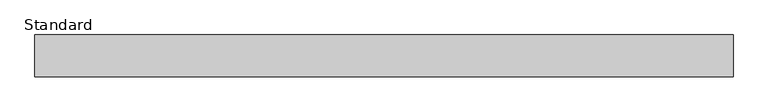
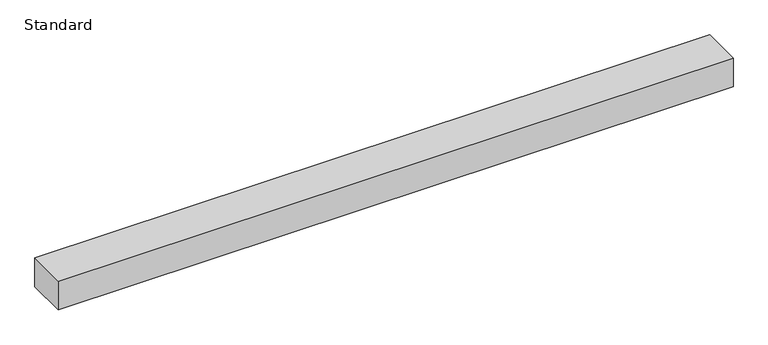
"""IFC4 building model written with IfcOpenShell, lengths in millimetres: proxy geometry, Raceway-ALA3800_Series-Wiremold-Steel : Standard."""

from ifc_helpers import new_model, si_unit, origin, origin_with_axes, place, context, project, spatial, polyline, outline, extrude, source, transform, mapped, element, save


def standard_67d72ea9(model_context):
    return source(origin(), model_context, "Body", "SweptSolid", [
        extrude(outline(polyline([(1271.3106066, 38.1), (1271.3106066, -38.1), (0.0, -38.1), (0.0, 38.1), (1271.3106066, 38.1)])), origin_with_axes(), (0.0, 0.0, 1.0), 57.15),
    ])


if __name__ == "__main__":
    model = new_model("IFC4")
    model_context = context("Model", 3, world=origin())
    ifc_project = project(units=[si_unit("LENGTHUNIT", "METRE", prefix="MILLI")], contexts=[model_context])
    site = spatial("IfcSite", under=ifc_project)
    building = spatial("IfcBuilding", under=site)
    placement = place(None, origin())
    standard_shape = standard_67d72ea9(model_context)
    element("IfcBuildingElementProxy", 1, Name="Raceway-ALA3800_Series-Wiremold-Steel : Standard", ObjectType="Raceway-ALA3800_Series-Wiremold-Steel : Standard", at=placement, inside=building, context=model_context, shape_type="MappedRepresentation", body=[
        mapped(standard_shape, transform((0.0, 0.0, 0.0), x_axis=(1.0, 0.0, 0.0), y_axis=(0.0, 1.0, 0.0), z_axis=(0.0, 0.0, 1.0))),
    ])
    save(model, "model.ifc")
